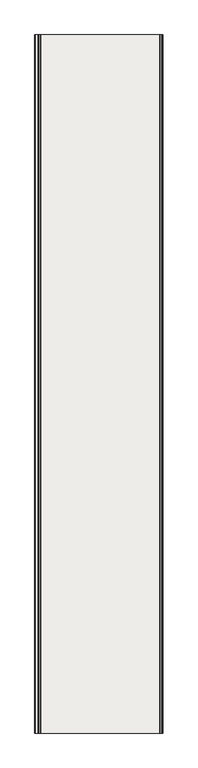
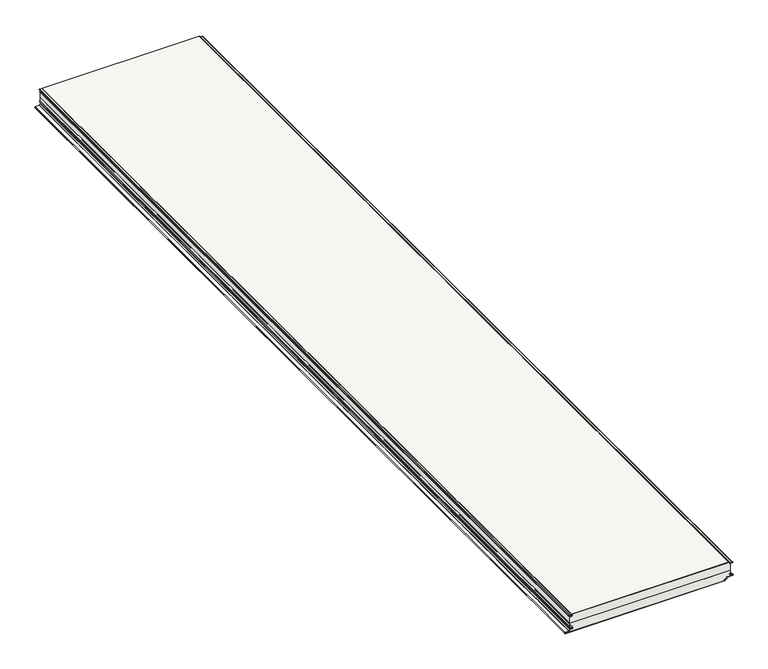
"""IFC4 building model written with IfcOpenShell, lengths in millimetres: covering geometry, Wall sandwich panel SPW-H CORE PIR (single sheet) : -."""

from ifc_helpers import new_model, si_unit, point, frame, frame_2d, origin, place, context, project, spatial, polyline, circle_curve, trimmed, segment, composite_curve, outline, extrude, source, transform, mapped, element, save
from ifc_brep_helpers import plane_surface, cylinder_surface, revolved_surface, advanced_brep


def covering_c6c3e174(model_context):
    return source(origin(), model_context, "Body", "SolidModel", [
        extrude(outline(composite_curve([segment(polyline([(-15.1088808, -1083.0523342), (-14.5423642, -1072.2421915)]), True, "CONTINUOUS"), segment(trimmed(circle_curve(frame_2d((-9.549216, -1072.5038626)), 5.0), [point((-14.5423642, -1072.2421915))], [point((-4.5522622, -1072.3293564))], False, "CARTESIAN"), True, "CONTINUOUS"), segment(polyline([(-4.5522622, -1072.3293564), (-4.0495702, -1086.7238513)]), True, "CONTINUOUS"), segment(trimmed(circle_curve(frame_2d((-2.5266447, -1086.6173526)), 1.5266447), [point((-4.0495702, -1086.7238513))], [point((-1.0, -1086.6173526))], True, "CARTESIAN"), True, "CONTINUOUS"), segment(polyline([(-1.0, -1086.6173526), (-1.0, -1085.0), (0.0, -1085.0), (0.0, -1086.6173526)]), True, "CONTINUOUS"), segment(trimmed(circle_curve(frame_2d((-2.5266447, -1086.6173526)), 2.5266447), [point((0.0, -1086.6173526))], [point((-5.0484281, -1086.7740115))], False, "CARTESIAN"), True, "CONTINUOUS"), segment(polyline([(-5.0484281, -1086.7740115), (-5.551653, -1072.3642576)]), True, "CONTINUOUS"), segment(trimmed(circle_curve(frame_2d((-9.549216, -1072.5038626)), 4.0), [point((-5.551653, -1072.3642576))], [point((-13.5437346, -1072.2945257))], True, "CARTESIAN"), True, "CONTINUOUS"), segment(polyline([(-13.5437346, -1072.2945257), (-14.1102512, -1083.1046684)]), True, "CONTINUOUS"), segment(trimmed(circle_curve(frame_2d((-16.1075105, -1083.0)), 2.0), [point((-14.1102512, -1083.1046684))], [point((-16.1075105, -1085.0))], False, "CARTESIAN"), True, "CONTINUOUS"), segment(polyline([(-16.1075105, -1085.0), (-18.1075105, -1085.0), (-18.1075105, -1084.0), (-16.1075105, -1084.0)]), True, "CONTINUOUS"), segment(trimmed(circle_curve(frame_2d((-16.1075105, -1083.0)), 1.0), [point((-16.1075105, -1084.0))], [point((-15.1088808, -1083.0523342))], True, "CARTESIAN"), True, "CONTINUOUS")], self_intersect=False)), frame((0.0, -6000.0, 0.0), z_axis=(0.0, 1.0, 0.0), x_axis=(0.0, 0.0, 1.0)), (0.0, 0.0, 1.0), 6000.0),
        advanced_brep(
        [(-1080.5824878, -6000.0, -102.0150874), (-1069.3324878, -6000.0, -101.9992045), (-1069.0709825, -6000.0, -92.0060522), (-1083.2742211, -6000.0, -91.2619406), (-1084.0, -6000.0, -90.4971426), (-1084.0, -6000.0, -81.4971426), (-1085.0, -6000.0, -81.4971426), (-1085.0, -6000.0, -90.4971426), (-1083.3265396, -6000.0, -92.260571), (-1069.123301, -6000.0, -93.0046827), (-1069.3331636, -6000.0, -100.9992044), (-1080.6396582, -6000.0, -101.0151671), (-1082.7899391, -6000.0, -102.27871), (-1088.1496634, -6000.0, -109.933474), (-1090.1975249, -6000.0, -110.9995686), (-1113.4143745, -6000.0, -110.9999738), (-1113.414296, -6000.0, -120.0), (-1085.0, -6000.0, -120.0), (-1085.0, -6000.0, -119.0), (-1113.414296, -6000.0, -119.0), (-1113.4143571, -6000.0, -112.0), (-1090.1975075, -6000.0, -111.9995686), (-1087.3305014, -6000.0, -110.5070361), (-1081.9707771, -6000.0, -102.8522722), (-1080.5824878, 0.0, -102.0150874), (-1081.9707771, 0.0, -102.8522722), (-1087.3305014, 0.0, -110.5070361), (-1090.1975075, 0.0, -111.9995686), (-1113.4143571, 0.0, -111.9999738), (-1113.414296, 0.0, -119.0), (-1085.0, 0.0, -119.0), (-1085.0, 0.0, -120.0), (-1113.414296, 0.0, -120.0), (-1113.4143745, 0.0, -111.0), (-1090.1975249, 0.0, -110.9995686), (-1088.1496634, 0.0, -109.933474), (-1082.7899391, 0.0, -102.27871), (-1080.6396582, 0.0, -101.0151671), (-1069.3331636, 0.0, -100.9992044), (-1069.123301, 0.0, -93.0046827), (-1083.3265396, 0.0, -92.260571), (-1085.0, 0.0, -90.4971426), (-1085.0, 0.0, -81.4971426), (-1084.0, 0.0, -81.4971426), (-1084.0, 0.0, -90.4971426), (-1083.2742211, 0.0, -91.2619406), (-1069.0709825, 0.0, -92.0060522), (-1069.3324878, 0.0, -101.9992045)],
        [
            (0, 1),
            (1, 2, circle_curve(frame((-1069.3325751, -6000.0, -96.9992045), z_axis=(0.0, -1.0, 0.0), x_axis=(1.0, 0.0, 0.0)), 5.0)),
            (2, 3),
            (3, 4, circle_curve(frame((-1083.2341531, -6000.0, -90.4971426), z_axis=(0.0, 1.0, 0.0), x_axis=(1.0, 0.0, 0.0)), 0.7658469)),
            (4, 5),
            (5, 6),
            (6, 7),
            (7, 8, circle_curve(frame((-1083.2341531, -6000.0, -90.4971426), z_axis=(0.0, -1.0, 0.0), x_axis=(1.0, 0.0, 0.0)), 1.7658469)),
            (8, 9),
            (9, 10, circle_curve(frame((-1069.3325751, -6000.0, -96.9992045), z_axis=(0.0, 1.0, 0.0), x_axis=(1.0, 0.0, 0.0)), 4.0)),
            (10, 11),
            (11, 12, circle_curve(frame((-1080.3324529, -6000.0, -103.9993964), z_axis=(0.0, -1.0, 0.0), x_axis=(1.0, 0.0, 0.0)), 3.0)),
            (12, 13),
            (13, 14, circle_curve(frame((-1090.1975686, -6000.0, -108.4995686), z_axis=(0.0, 1.0, 0.0), x_axis=(1.0, 0.0, 0.0)), 2.5)),
            (14, 15),
            (15, 16, circle_curve(frame((-1113.414296, -6000.0, -115.5), z_axis=(0.0, -1.0, 0.0), x_axis=(1.0, 0.0, 0.0)), 4.5)),
            (16, 17),
            (17, 18),
            (18, 19),
            (19, 20, circle_curve(frame((-1113.414296, -6000.0, -115.5), z_axis=(0.0, 1.0, 0.0), x_axis=(1.0, 0.0, 0.0)), 3.5)),
            (20, 21),
            (21, 22, circle_curve(frame((-1090.1975686, -6000.0, -108.4995686), z_axis=(0.0, -1.0, 0.0), x_axis=(1.0, 0.0, 0.0)), 3.5)),
            (22, 23),
            (23, 0, circle_curve(frame((-1080.3324529, -6000.0, -103.9993964), z_axis=(0.0, 1.0, 0.0), x_axis=(1.0, 0.0, 0.0)), 2.0)),
            (24, 25, circle_curve(frame((-1080.3324529, 0.0, -103.9993964), z_axis=(0.0, -1.0, 0.0), x_axis=(1.0, 0.0, 0.0)), 2.0)),
            (25, 26),
            (26, 27, circle_curve(frame((-1090.1975686, 0.0, -108.4995686), z_axis=(0.0, 1.0, 0.0), x_axis=(1.0, 0.0, 0.0)), 3.5)),
            (27, 28),
            (28, 29, circle_curve(frame((-1113.414296, 0.0, -115.5), z_axis=(0.0, -1.0, 0.0), x_axis=(1.0, 0.0, 0.0)), 3.5)),
            (29, 30),
            (30, 31),
            (31, 32),
            (32, 33, circle_curve(frame((-1113.414296, 0.0, -115.5), z_axis=(0.0, 1.0, 0.0), x_axis=(1.0, 0.0, 0.0)), 4.5)),
            (33, 34),
            (34, 35, circle_curve(frame((-1090.1975686, 0.0, -108.4995686), z_axis=(0.0, -1.0, 0.0), x_axis=(1.0, 0.0, 0.0)), 2.5)),
            (35, 36),
            (36, 37, circle_curve(frame((-1080.3324529, 0.0, -103.9993964), z_axis=(0.0, 1.0, 0.0), x_axis=(1.0, 0.0, 0.0)), 3.0)),
            (37, 38),
            (38, 39, circle_curve(frame((-1069.3325751, 0.0, -96.9992045), z_axis=(0.0, -1.0, 0.0), x_axis=(1.0, 0.0, 0.0)), 4.0)),
            (39, 40),
            (40, 41, circle_curve(frame((-1083.2341531, 0.0, -90.4971426), z_axis=(0.0, 1.0, 0.0), x_axis=(1.0, 0.0, 0.0)), 1.7658469)),
            (41, 42),
            (42, 43),
            (43, 44),
            (44, 45, circle_curve(frame((-1083.2341531, 0.0, -90.4971426), z_axis=(0.0, -1.0, 0.0), x_axis=(1.0, 0.0, 0.0)), 0.7658469)),
            (45, 46),
            (46, 47, circle_curve(frame((-1069.3325751, 0.0, -96.9992045), z_axis=(0.0, 1.0, 0.0), x_axis=(1.0, 0.0, 0.0)), 5.0)),
            (47, 24),
            (0, 24),
            (47, 1),
            (46, 2),
            (45, 3),
            (44, 4),
            (43, 5),
            (42, 6),
            (16, 32),
            (31, 17),
            (30, 18),
            (29, 19),
            (41, 7),
            (40, 8),
            (39, 9),
            (38, 10),
            (37, 11),
            (36, 12),
            (35, 13),
            (34, 14),
            (33, 15),
            (20, 28),
            (27, 21),
            (26, 22),
            (25, 23),
        ],
        [
            plane_surface(frame((-1085.0, -6000.0, -120.0), z_axis=(0.0, -1.0, 0.0), x_axis=(0.0, 0.0, -1.0))),
            plane_surface(frame((-1085.0, 0.0, -120.0), z_axis=(0.0, 1.0, 0.0), x_axis=(0.0, 0.0, -1.0))),
            plane_surface(frame((-1080.5824878, -6000.0, -102.0150874), z_axis=(0.001411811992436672, 0.0, -0.9999990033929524), x_axis=(0.0, 1.0, 0.0))),
            cylinder_surface(frame((-1069.3325751, -6000.0, -96.9992045), z_axis=(0.0, -1.0, 0.0), x_axis=(1.0, 0.0, 0.0)), 5.0),
            plane_surface(frame((-1069.0709825, -6000.0, -92.0060522), z_axis=(0.05231852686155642, 0.0, 0.998630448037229), x_axis=(0.0, 1.0, 0.0))),
            revolved_surface(polyline([(-1082.4683062, 0.0, -90.4971426), (-1082.4683062, -6000.0, -90.4971426)]), (-1083.2341531, -6000.0, -90.4971426), (0.0, 1.0, 0.0)),
            plane_surface(frame((-1084.0, -6000.0, -90.4971426), z_axis=(1.0, 0.0, 0.0), x_axis=(0.0, 1.0, 0.0))),
            plane_surface(frame((-1084.0, -6000.0, -81.4971426), z_axis=(0.0, 0.0, 1.0), x_axis=(0.0, 1.0, 0.0))),
            plane_surface(frame((-1113.414296, -6000.0, -120.0), z_axis=(0.0, 0.0, -1.0), x_axis=(0.0, 1.0, 0.0))),
            plane_surface(frame((-1085.0, -6000.0, -120.0), z_axis=(1.0, 0.0, 0.0), x_axis=(0.0, 1.0, 0.0))),
            plane_surface(frame((-1085.0, -6000.0, -119.0), z_axis=(0.0, 0.0, 1.0), x_axis=(0.0, 1.0, 0.0))),
            plane_surface(frame((-1085.0, -6000.0, -81.4971426), z_axis=(-1.0, 0.0, 0.0), x_axis=(0.0, 1.0, 0.0))),
            cylinder_surface(frame((-1083.2341531, -6000.0, -90.4971426), z_axis=(0.0, -1.0, 0.0), x_axis=(1.0, 0.0, 0.0)), 1.7658469),
            plane_surface(frame((-1083.3265396, -6000.0, -92.260571), z_axis=(-0.05231852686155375, 0.0, -0.9986304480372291), x_axis=(0.0, 1.0, 0.0))),
            revolved_surface(polyline([(-1065.3325751, 0.0, -96.9992045), (-1065.3325751, -6000.0, -96.9992045)]), (-1069.3325751, -6000.0, -96.9992045), (0.0, 1.0, 0.0)),
            plane_surface(frame((-1069.3331636, -6000.0, -100.9992044), z_axis=(-0.0014118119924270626, 0.0, 0.9999990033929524), x_axis=(0.0, 1.0, 0.0))),
            cylinder_surface(frame((-1080.3324529, -6000.0, -103.9993964), z_axis=(0.0, -1.0, 0.0), x_axis=(1.0, 0.0, 0.0)), 3.0),
            plane_surface(frame((-1082.7899391, -6000.0, -102.27871), z_axis=(-0.8191620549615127, 0.0, 0.573562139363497), x_axis=(0.0, 1.0, 0.0))),
            revolved_surface(polyline([(-1087.6975686, 0.0, -108.4995686), (-1087.6975686, -6000.0, -108.4995686)]), (-1090.1975686, -6000.0, -108.4995686), (0.0, 1.0, 0.0)),
            plane_surface(frame((-1090.1975249, -6000.0, -110.9995686), z_axis=(-1.745329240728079e-05, 0.0, 0.9999999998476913), x_axis=(0.0, 1.0, 0.0))),
            plane_surface(frame((-1113.4143571, -6000.0, -111.9999738), z_axis=(1.7453292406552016e-05, 0.0, -0.9999999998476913), x_axis=(0.0, 1.0, 0.0))),
            cylinder_surface(frame((-1090.1975686, -6000.0, -108.4995686), z_axis=(0.0, -1.0, 0.0), x_axis=(1.0, 0.0, 0.0)), 3.5),
            plane_surface(frame((-1087.3305014, -6000.0, -110.5070361), z_axis=(0.8191620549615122, 0.0, -0.5735621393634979), x_axis=(0.0, 1.0, 0.0))),
            revolved_surface(polyline([(-1078.3324529, 0.0, -103.9993964), (-1078.3324529, -6000.0, -103.9993964)]), (-1080.3324529, -6000.0, -103.9993964), (0.0, 1.0, 0.0)),
            cylinder_surface(frame((-1113.414296, -6000.0, -115.5), z_axis=(0.0, -1.0, 0.0), x_axis=(1.0, 0.0, 0.0)), 4.5),
            revolved_surface(polyline([(-1109.914296, 0.0, -115.5), (-1109.914296, -6000.0, -115.5)]), (-1113.414296, -6000.0, -115.5), (0.0, 1.0, 0.0)),
        ],
        [
            (0, [[1, 2, 3, 4, 5, 6, 7, 8, 9, 10, 11, 12, 13, 14, 15, 16, 17, 18, 19, 20, 21, 22, 23, 24]]),
            (1, [[25, 26, 27, 28, 29, 30, 31, 32, 33, 34, 35, 36, 37, 38, 39, 40, 41, 42, 43, 44, 45, 46, 47, 48]]),
            (2, [[-1, 49, -48, 50]]),
            (3, [[-2, -50, -47, 51]]),
            (4, [[-3, -51, -46, 52]]),
            (5, [[-4, -52, -45, 53]]),
            (6, [[-5, -53, -44, 54]]),
            (7, [[-6, -54, -43, 55]]),
            (8, [[-17, 56, -32, 57]]),
            (9, [[-18, -57, -31, 58]]),
            (10, [[-19, -58, -30, 59]]),
            (11, [[-7, -55, -42, 60]]),
            (12, [[-8, -60, -41, 61]]),
            (13, [[-9, -61, -40, 62]]),
            (14, [[-10, -62, -39, 63]]),
            (15, [[-11, -63, -38, 64]]),
            (16, [[-12, -64, -37, 65]]),
            (17, [[-13, -65, -36, 66]]),
            (18, [[-14, -66, -35, 67]]),
            (19, [[-15, -67, -34, 68]]),
            (20, [[-21, 69, -28, 70]]),
            (21, [[-22, -70, -27, 71]]),
            (22, [[-23, -71, -26, 72]]),
            (23, [[-24, -72, -25, -49]]),
            (24, [[-16, -68, -33, -56]]),
            (25, [[-20, -59, -29, -69]]),
        ],
    ),
        extrude(outline(composite_curve([segment(polyline([(-1.0, -1085.0), (-1.0, -42.1186621)]), True, "CONTINUOUS"), segment(trimmed(circle_curve(frame_2d((-2.5, -42.1186621)), 1.5), [point((-1.0, -42.1186621))], [point((-2.5, -40.6186621))], True, "CARTESIAN"), True, "CONTINUOUS"), segment(polyline([(-2.5, -40.6186621), (-4.3, -40.6186621)]), True, "CONTINUOUS"), segment(trimmed(circle_curve(frame_2d((-4.3, -38.1186621)), 2.5), [point((-4.3, -40.6186621))], [point((-6.7984771, -38.2059108))], False, "CARTESIAN"), True, "CONTINUOUS"), segment(polyline([(-6.7984771, -38.2059108), (-7.363951, -22.012857)]), True, "CONTINUOUS"), segment(trimmed(circle_curve(frame_2d((-9.3627326, -22.082656)), 2.0), [point((-7.363951, -22.012857))], [point((-11.3599917, -21.9779841))], True, "CARTESIAN"), True, "CONTINUOUS"), segment(polyline([(-11.3599917, -21.9779841), (-11.921027, -32.6831758)]), True, "CONTINUOUS"), segment(trimmed(circle_curve(frame_2d((-15.4162304, -32.5)), 3.5), [point((-11.921027, -32.6831758))], [point((-15.4162304, -36.0))], False, "CARTESIAN"), True, "CONTINUOUS"), segment(polyline([(-15.4162304, -36.0), (-18.1062304, -36.0), (-18.1062304, -35.0), (-15.4162304, -35.0)]), True, "CONTINUOUS"), segment(trimmed(circle_curve(frame_2d((-15.4162304, -32.5)), 2.5), [point((-15.4162304, -35.0))], [point((-12.9196566, -32.6308399))], True, "CARTESIAN"), True, "CONTINUOUS"), segment(polyline([(-12.9196566, -32.6308399), (-12.3586212, -21.9256482)]), True, "CONTINUOUS"), segment(trimmed(circle_curve(frame_2d((-9.3627326, -22.082656)), 3.0), [point((-12.3586212, -21.9256482))], [point((-6.3645601, -21.9779575))], False, "CARTESIAN"), True, "CONTINUOUS"), segment(polyline([(-6.3645601, -21.9779575), (-5.7990862, -38.1710114)]), True, "CONTINUOUS"), segment(trimmed(circle_curve(frame_2d((-4.3, -38.1186621)), 1.5), [point((-5.7990862, -38.1710114))], [point((-4.3, -39.6186621))], True, "CARTESIAN"), True, "CONTINUOUS"), segment(polyline([(-4.3, -39.6186621), (-2.5, -39.6186621)]), True, "CONTINUOUS"), segment(trimmed(circle_curve(frame_2d((-2.5, -42.1186621)), 2.5), [point((-2.5, -39.6186621))], [point((0.0, -42.1186621))], False, "CARTESIAN"), True, "CONTINUOUS"), segment(polyline([(0.0, -42.1186621), (0.0, -1085.0), (-1.0, -1085.0)]), True, "CONTINUOUS")], self_intersect=False)), frame((0.0, -6000.0, 0.0), z_axis=(0.0, 1.0, 0.0), x_axis=(0.0, 0.0, 1.0)), (0.0, 0.0, 1.0), 6000.0),
        extrude(outline(composite_curve([segment(polyline([(-119.0, -1085.0), (-120.0, -1085.0), (-120.0, -73.4477183)]), True, "CONTINUOUS"), segment(trimmed(circle_curve(frame_2d((-115.0, -73.4477183)), 5.0), [point((-120.0, -73.4477183))], [point((-115.0, -68.4477183))], False, "CARTESIAN"), True, "CONTINUOUS"), segment(polyline([(-115.0, -68.4477183), (-112.008232, -68.4477183)]), True, "CONTINUOUS"), segment(trimmed(circle_curve(frame_2d((-112.008232, -66.4315256)), 2.0161927), [point((-112.008232, -68.4477183))], [point((-109.9920393, -66.4315256))], True, "CARTESIAN"), True, "CONTINUOUS"), segment(polyline([(-109.9920393, -66.4315256), (-109.9920393, -60.9141788)]), True, "CONTINUOUS"), segment(trimmed(circle_curve(frame_2d((-107.4959919, -60.9141788)), 2.4960474), [point((-109.9920393, -60.9141788))], [point((-107.9326372, -58.4566204))], False, "CARTESIAN"), True, "CONTINUOUS"), segment(polyline([(-107.9326372, -58.4566204), (-101.6533464, -57.3460478)]), True, "CONTINUOUS"), segment(trimmed(circle_curve(frame_2d((-102.0004127, -55.3763918)), 2.0), [point((-101.6533464, -57.3460478))], [point((-100.0004127, -55.3763918))], True, "CARTESIAN"), True, "CONTINUOUS"), segment(polyline([(-100.0004127, -55.3763918), (-100.0004127, -18.8763918)]), True, "CONTINUOUS"), segment(trimmed(circle_curve(frame_2d((-97.0004127, -18.8763918)), 3.0), [point((-100.0004127, -18.8763918))], [point((-94.0045241, -18.7193839))], False, "CARTESIAN"), True, "CONTINUOUS"), segment(polyline([(-94.0045241, -18.7193839), (-93.2754556, -32.6308399)]), True, "CONTINUOUS"), segment(trimmed(circle_curve(frame_2d((-90.7788817, -32.5)), 2.5), [point((-93.2754556, -32.6308399))], [point((-90.7788817, -35.0))], True, "CARTESIAN"), True, "CONTINUOUS"), segment(polyline([(-90.7788817, -35.0), (-81.4988817, -35.0), (-81.4988817, -36.0), (-90.7788817, -36.0)]), True, "CONTINUOUS"), segment(trimmed(circle_curve(frame_2d((-90.7788817, -32.5)), 3.5), [point((-90.7788817, -36.0))], [point((-94.2740851, -32.6831758))], False, "CARTESIAN"), True, "CONTINUOUS"), segment(polyline([(-94.2740851, -32.6831758), (-95.0031536, -18.7717199)]), True, "CONTINUOUS"), segment(trimmed(circle_curve(frame_2d((-97.0004127, -18.8763918)), 2.0), [point((-95.0031536, -18.7717199))], [point((-99.0004127, -18.8763918))], True, "CARTESIAN"), True, "CONTINUOUS"), segment(polyline([(-99.0004127, -18.8763918), (-99.0004127, -55.3763918)]), True, "CONTINUOUS"), segment(trimmed(circle_curve(frame_2d((-102.0004127, -55.3763918)), 3.0), [point((-99.0004127, -55.3763918))], [point((-101.4794682, -58.330815))], False, "CARTESIAN"), True, "CONTINUOUS"), segment(polyline([(-101.4794682, -58.330815), (-107.7580406, -59.4412605)]), True, "CONTINUOUS"), segment(trimmed(circle_curve(frame_2d((-107.4959919, -60.9141788)), 1.4960474), [point((-107.7580406, -59.4412605))], [point((-108.9920393, -60.9141788))], True, "CARTESIAN"), True, "CONTINUOUS"), segment(polyline([(-108.9920393, -60.9141788), (-108.9920393, -66.4315256)]), True, "CONTINUOUS"), segment(trimmed(circle_curve(frame_2d((-112.008232, -66.4315256)), 3.0161927), [point((-108.9920393, -66.4315256))], [point((-112.008232, -69.4477183))], False, "CARTESIAN"), True, "CONTINUOUS"), segment(polyline([(-112.008232, -69.4477183), (-115.0, -69.4477183)]), True, "CONTINUOUS"), segment(trimmed(circle_curve(frame_2d((-115.0, -73.4477183)), 4.0), [point((-115.0, -69.4477183))], [point((-119.0, -73.4477183))], True, "CARTESIAN"), True, "CONTINUOUS"), segment(polyline([(-119.0, -73.4477183), (-119.0, -1085.0)]), True, "CONTINUOUS")], self_intersect=False)), frame((0.0, -6000.0, 0.0), z_axis=(0.0, 1.0, 0.0), x_axis=(0.0, 0.0, 1.0)), (0.0, 0.0, 1.0), 6000.0),
        advanced_brep(
        [(-1113.414296, -6000.0, -119.0), (-1085.0, -6000.0, -119.0), (-73.4477183, -6000.0, -119.0), (-69.4477183, -6000.0, -115.0), (-69.4477183, -6000.0, -112.0078193), (-66.4315256, -6000.0, -108.9916266), (-60.9141788, -6000.0, -108.9916266), (-59.4412605, -6000.0, -107.7576279), (-58.330815, -6000.0, -101.4790555), (-55.3763918, -6000.0, -99.0), (-18.8763918, -6000.0, -99.0), (-18.7717199, -6000.0, -95.0027409), (-32.6831758, -6000.0, -94.2736724), (-36.0, -6000.0, -90.778469), (-36.0, -6000.0, -60.0), (-1084.0, -6000.0, -60.0), (-1084.0, -6000.0, -90.4971426), (-1083.2742211, -6000.0, -91.2619406), (-1069.0709825, -6000.0, -92.0060522), (-1069.3324878, -6000.0, -101.9992045), (-1080.3324878, -6000.0, -101.9993964), (-1081.9707771, -6000.0, -102.8522722), (-1087.3305014, -6000.0, -110.5070361), (-1090.1975075, -6000.0, -111.9995686), (-1113.4143571, -6000.0, -111.9999738), (-1085.0, 0.0, -119.0), (-1113.414296, 0.0, -119.0), (-1113.4143571, 0.0, -112.0), (-1090.1975075, 0.0, -111.9995686), (-1087.3305014, 0.0, -110.5070361), (-1081.9707771, 0.0, -102.8522722), (-1080.3324878, 0.0, -101.9993964), (-1069.3324878, 0.0, -101.9992045), (-1069.0709825, 0.0, -92.0060522), (-1083.2742211, 0.0, -91.2619406), (-1084.0, 0.0, -90.4971426), (-1084.0, 0.0, -60.0), (-36.0, 0.0, -60.0), (-36.0, 0.0, -90.778469), (-32.6831758, 0.0, -94.2736724), (-18.7717199, 0.0, -95.0027409), (-18.8763918, 0.0, -99.0), (-55.3763918, 0.0, -99.0), (-58.330815, 0.0, -101.4790555), (-59.4412605, 0.0, -107.7576279), (-60.9141788, 0.0, -108.9916266), (-66.4315256, 0.0, -108.9916266), (-69.4477183, 0.0, -112.0078193), (-69.4477183, 0.0, -115.0), (-73.4477183, 0.0, -119.0)],
        [
            (0, 1),
            (1, 2),
            (2, 3, circle_curve(frame((-73.4477183, -6000.0, -115.0), z_axis=(0.0, -1.0, 0.0), x_axis=(-1.0, 0.0, 0.0)), 4.0)),
            (3, 4),
            (4, 5, circle_curve(frame((-66.4315256, -6000.0, -112.0078193), z_axis=(0.0, 1.0, 0.0), x_axis=(-1.0, 0.0, 0.0)), 3.0161927)),
            (5, 6),
            (6, 7, circle_curve(frame((-60.9141788, -6000.0, -107.4955792), z_axis=(0.0, -1.0, 0.0), x_axis=(-1.0, 0.0, 0.0)), 1.4960474)),
            (7, 8),
            (8, 9, circle_curve(frame((-55.3763918, -6000.0, -102.0), z_axis=(0.0, 1.0, 0.0), x_axis=(-1.0, 0.0, 0.0)), 3.0)),
            (9, 10),
            (10, 11, circle_curve(frame((-18.8763918, -6000.0, -97.0), z_axis=(0.0, -1.0, 0.0), x_axis=(-1.0, 0.0, 0.0)), 2.0)),
            (11, 12),
            (12, 13, circle_curve(frame((-32.5, -6000.0, -90.778469), z_axis=(0.0, 1.0, 0.0), x_axis=(-1.0, 0.0, 0.0)), 3.5)),
            (13, 14),
            (14, 15),
            (15, 16),
            (16, 17, circle_curve(frame((-1083.2341531, -6000.0, -90.4971426), z_axis=(0.0, -1.0, 0.0), x_axis=(-1.0, 0.0, 0.0)), 0.7658469)),
            (17, 18),
            (18, 19, circle_curve(frame((-1069.3325751, -6000.0, -96.9992045), z_axis=(0.0, 1.0, 0.0), x_axis=(-1.0, 0.0, 0.0)), 5.0)),
            (19, 20),
            (20, 21, circle_curve(frame((-1080.3324529, -6000.0, -103.9993964), z_axis=(0.0, -1.0, 0.0), x_axis=(-1.0, 0.0, 0.0)), 2.0)),
            (21, 22),
            (22, 23, circle_curve(frame((-1090.1975686, -6000.0, -108.4995686), z_axis=(0.0, 1.0, 0.0), x_axis=(-1.0, 0.0, 0.0)), 3.5)),
            (23, 24),
            (24, 0, circle_curve(frame((-1113.414296, -6000.0, -115.5), z_axis=(0.0, -1.0, 0.0), x_axis=(-1.0, 0.0, 0.0)), 3.5)),
            (25, 26),
            (26, 27, circle_curve(frame((-1113.414296, 0.0, -115.5), z_axis=(0.0, 1.0, 0.0), x_axis=(-1.0, 0.0, 0.0)), 3.5)),
            (27, 28),
            (28, 29, circle_curve(frame((-1090.1975686, 0.0, -108.4995686), z_axis=(0.0, -1.0, 0.0), x_axis=(-1.0, 0.0, 0.0)), 3.5)),
            (29, 30),
            (30, 31, circle_curve(frame((-1080.3324529, 0.0, -103.9993964), z_axis=(0.0, 1.0, 0.0), x_axis=(-1.0, 0.0, 0.0)), 2.0)),
            (31, 32),
            (32, 33, circle_curve(frame((-1069.3325751, 0.0, -96.9992045), z_axis=(0.0, -1.0, 0.0), x_axis=(-1.0, 0.0, 0.0)), 5.0)),
            (33, 34),
            (34, 35, circle_curve(frame((-1083.2341531, 0.0, -90.4971426), z_axis=(0.0, 1.0, 0.0), x_axis=(-1.0, 0.0, 0.0)), 0.7658469)),
            (35, 36),
            (36, 37),
            (37, 38),
            (38, 39, circle_curve(frame((-32.5, 0.0, -90.778469), z_axis=(0.0, -1.0, 0.0), x_axis=(-1.0, 0.0, 0.0)), 3.5)),
            (39, 40),
            (40, 41, circle_curve(frame((-18.8763918, 0.0, -97.0), z_axis=(0.0, 1.0, 0.0), x_axis=(-1.0, 0.0, 0.0)), 2.0)),
            (41, 42),
            (42, 43, circle_curve(frame((-55.3763918, 0.0, -102.0), z_axis=(0.0, -1.0, 0.0), x_axis=(-1.0, 0.0, 0.0)), 3.0)),
            (43, 44),
            (44, 45, circle_curve(frame((-60.9141788, 0.0, -107.4955792), z_axis=(0.0, 1.0, 0.0), x_axis=(-1.0, 0.0, 0.0)), 1.4960474)),
            (45, 46),
            (46, 47, circle_curve(frame((-66.4315256, 0.0, -112.0078193), z_axis=(0.0, -1.0, 0.0), x_axis=(-1.0, 0.0, 0.0)), 3.0161927)),
            (47, 48),
            (48, 49, circle_curve(frame((-73.4477183, 0.0, -115.0), z_axis=(0.0, 1.0, 0.0), x_axis=(-1.0, 0.0, 0.0)), 4.0)),
            (49, 25),
            (36, 15),
            (14, 37),
            (0, 26),
            (49, 2),
            (23, 28),
            (27, 24),
            (22, 29),
            (21, 30),
            (20, 31),
            (19, 32),
            (18, 33),
            (17, 34),
            (16, 35),
            (13, 38),
            (12, 39),
            (11, 40),
            (10, 41),
            (9, 42),
            (8, 43),
            (7, 44),
            (6, 45),
            (5, 46),
            (4, 47),
            (3, 48),
        ],
        [
            plane_surface(frame((-1145.0, -6000.0, -60.0), z_axis=(0.0, -1.0, 0.0), x_axis=(-1.0, 0.0, 0.0))),
            plane_surface(frame((-1145.0, 0.0, -60.0), z_axis=(0.0, 1.0, 0.0), x_axis=(1.0, 0.0, 0.0))),
            plane_surface(frame((15.0, -6000.0, -60.0), z_axis=(0.0, 0.0, 1.0), x_axis=(0.0, 1.0, 0.0))),
            plane_surface(frame((-1145.0, -6000.0, -119.0), z_axis=(0.0, 0.0, -1.0), x_axis=(0.0, 1.0, 0.0))),
            plane_surface(frame((-1113.4143571, -6000.0, -111.9999738), z_axis=(-1.7453294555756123e-05, 0.0, 0.9999999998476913), x_axis=(0.0, 1.0, 0.0))),
            revolved_surface(polyline([(-1093.6975686, -6000.0, -108.4995686), (-1093.6975686, 0.0, -108.4995686)]), (-1090.1975686, -6000.0, -108.4995686), (0.0, -1.0, 0.0)),
            plane_surface(frame((-1087.3305014, -6000.0, -110.5070361), z_axis=(-0.8191620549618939, 0.0, 0.5735621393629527), x_axis=(0.0, 1.0, 0.0))),
            cylinder_surface(frame((-1080.3324529, -6000.0, -103.9993964), z_axis=(0.0, 1.0, 0.0), x_axis=(-1.0, 0.0, 0.0)), 2.0),
            plane_surface(frame((-1080.3324878, -6000.0, -101.9993964), z_axis=(-1.7453292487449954e-05, 0.0, 0.9999999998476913), x_axis=(0.0, 1.0, 0.0))),
            revolved_surface(polyline([(-1074.3325751, -6000.0, -96.9992045), (-1074.3325751, 0.0, -96.9992045)]), (-1069.3325751, -6000.0, -96.9992045), (0.0, -1.0, 0.0)),
            plane_surface(frame((-1069.0709825, -6000.0, -92.0060522), z_axis=(-0.05231852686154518, 0.0, -0.9986304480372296), x_axis=(0.0, 1.0, 0.0))),
            cylinder_surface(frame((-1083.2341531, -6000.0, -90.4971426), z_axis=(0.0, 1.0, 0.0), x_axis=(-1.0, 0.0, 0.0)), 0.7658469),
            plane_surface(frame((-1084.0, -6000.0, -90.4971426), z_axis=(-1.0, 0.0, 0.0), x_axis=(0.0, 1.0, 0.0))),
            plane_surface(frame((-36.0, -6000.0, -15.4162304), z_axis=(1.0, 0.0, 0.0), x_axis=(0.0, 1.0, 0.0))),
            revolved_surface(polyline([(-36.0, -6000.0, -90.778469), (-36.0, 0.0, -90.778469)]), (-32.5, -6000.0, -90.778469), (0.0, -1.0, 0.0)),
            plane_surface(frame((-32.6831758, -6000.0, -94.2736724), z_axis=(0.05233595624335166, 0.0, 0.9986295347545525), x_axis=(0.0, 1.0, 0.0))),
            cylinder_surface(frame((-18.8763918, -6000.0, -97.0), z_axis=(0.0, 1.0, 0.0), x_axis=(-1.0, 0.0, 0.0)), 2.0),
            plane_surface(frame((-18.8763918, -6000.0, -99.0), z_axis=(0.0, 0.0, -1.0), x_axis=(0.0, 1.0, 0.0))),
            revolved_surface(polyline([(-58.3763918, -6000.0, -102.0), (-58.3763918, 0.0, -102.0)]), (-55.3763918, -6000.0, -102.0), (0.0, -1.0, 0.0)),
            plane_surface(frame((-58.330815, -6000.0, -101.4790555), z_axis=(0.9847174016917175, 0.0, -0.17415980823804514), x_axis=(0.0, 1.0, 0.0))),
            cylinder_surface(frame((-60.9141788, -6000.0, -107.4955792), z_axis=(0.0, 1.0, 0.0), x_axis=(-1.0, 0.0, 0.0)), 1.4960474),
            plane_surface(frame((-60.9141788, -6000.0, -108.9916266), z_axis=(0.0, 0.0, -1.0), x_axis=(0.0, 1.0, 0.0))),
            revolved_surface(polyline([(-69.4477183, -6000.0, -112.0078193), (-69.4477183, 0.0, -112.0078193)]), (-66.4315256, -6000.0, -112.0078193), (0.0, -1.0, 0.0)),
            plane_surface(frame((-69.4477183, -6000.0, -112.0078193), z_axis=(1.0, 0.0, 0.0), x_axis=(0.0, 1.0, 0.0))),
            cylinder_surface(frame((-73.4477183, -6000.0, -115.0), z_axis=(0.0, 1.0, 0.0), x_axis=(-1.0, 0.0, 0.0)), 4.0),
            cylinder_surface(frame((-1113.414296, -6000.0, -115.5), z_axis=(0.0, 1.0, 0.0), x_axis=(-1.0, 0.0, 0.0)), 3.5),
        ],
        [
            (0, [[1, 2, 3, 4, 5, 6, 7, 8, 9, 10, 11, 12, 13, 14, 15, 16, 17, 18, 19, 20, 21, 22, 23, 24, 25]]),
            (1, [[26, 27, 28, 29, 30, 31, 32, 33, 34, 35, 36, 37, 38, 39, 40, 41, 42, 43, 44, 45, 46, 47, 48, 49, 50]]),
            (2, [[51, -15, 52, -37]]),
            (3, [[-1, 53, -26, -50, 54, -2]]),
            (4, [[55, -28, 56, -24]]),
            (5, [[-55, -23, 57, -29]]),
            (6, [[-57, -22, 58, -30]]),
            (7, [[-58, -21, 59, -31]]),
            (8, [[-59, -20, 60, -32]]),
            (9, [[-60, -19, 61, -33]]),
            (10, [[-61, -18, 62, -34]]),
            (11, [[-62, -17, 63, -35]]),
            (12, [[-63, -16, -51, -36]]),
            (13, [[64, -38, -52, -14]]),
            (14, [[-64, -13, 65, -39]]),
            (15, [[-65, -12, 66, -40]]),
            (16, [[-66, -11, 67, -41]]),
            (17, [[-67, -10, 68, -42]]),
            (18, [[-68, -9, 69, -43]]),
            (19, [[-69, -8, 70, -44]]),
            (20, [[-70, -7, 71, -45]]),
            (21, [[-71, -6, 72, -46]]),
            (22, [[-72, -5, 73, -47]]),
            (23, [[-73, -4, 74, -48]]),
            (24, [[-74, -3, -54, -49]]),
            (25, [[-56, -27, -53, -25]]),
        ],
    ),
        advanced_brep(
        [(-1085.0, -6000.0, -1.0), (-1086.6173526, -6000.0, -1.0), (-1086.7238513, -6000.0, -4.0495702), (-1072.3293564, -6000.0, -4.5522622), (-1072.2421915, -6000.0, -14.5423642), (-1083.0523342, -6000.0, -15.1088808), (-1084.0, -6000.0, -16.1075105), (-1084.0, -6000.0, -60.0), (-36.0, -6000.0, -60.0), (-36.0, -6000.0, -15.4162304), (-32.6831758, -6000.0, -11.921027), (-21.9779841, -6000.0, -11.3599917), (-22.012857, -6000.0, -7.363951), (-38.2059108, -6000.0, -6.7984771), (-40.6186621, -6000.0, -4.3), (-40.6186621, -6000.0, -2.5), (-42.1186621, -6000.0, -1.0), (-43.1368714, -6000.0, -1.0), (-1086.6173526, 0.0, -1.0), (-1085.0, 0.0, -1.0), (-43.1368714, 0.0, -1.0), (-42.1186621, 0.0, -1.0), (-40.6186621, 0.0, -2.5), (-40.6186621, 0.0, -4.3), (-38.2059108, 0.0, -6.7984771), (-22.012857, 0.0, -7.363951), (-21.9779841, 0.0, -11.3599917), (-32.6831758, 0.0, -11.921027), (-36.0, 0.0, -15.4162304), (-36.0, 0.0, -60.0), (-1084.0, 0.0, -60.0), (-1084.0, 0.0, -16.1075105), (-1083.0523342, 0.0, -15.1088808), (-1072.2421915, 0.0, -14.5423642), (-1072.3293564, 0.0, -4.5522622), (-1086.7238513, 0.0, -4.0495702)],
        [
            (0, 1),
            (1, 2, circle_curve(frame((-1086.6173526, -6000.0, -2.5266447), z_axis=(0.0, -1.0, 0.0), x_axis=(-1.0, 0.0, 0.0)), 1.5266447)),
            (2, 3),
            (3, 4, circle_curve(frame((-1072.5038626, -6000.0, -9.549216), z_axis=(0.0, 1.0, 0.0), x_axis=(-1.0, 0.0, 0.0)), 5.0)),
            (4, 5),
            (5, 6, circle_curve(frame((-1083.0, -6000.0, -16.1075105), z_axis=(0.0, -1.0, 0.0), x_axis=(-1.0, 0.0, 0.0)), 1.0)),
            (6, 7),
            (7, 8),
            (8, 9),
            (9, 10, circle_curve(frame((-32.5, -6000.0, -15.4162304), z_axis=(0.0, 1.0, 0.0), x_axis=(-1.0, 0.0, 0.0)), 3.5)),
            (10, 11),
            (11, 12, circle_curve(frame((-22.082656, -6000.0, -9.3627326), z_axis=(0.0, -1.0, 0.0), x_axis=(-1.0, 0.0, 0.0)), 2.0)),
            (12, 13),
            (13, 14, circle_curve(frame((-38.1186621, -6000.0, -4.3), z_axis=(0.0, 1.0, 0.0), x_axis=(-1.0, 0.0, 0.0)), 2.5)),
            (14, 15),
            (15, 16, circle_curve(frame((-42.1186621, -6000.0, -2.5), z_axis=(0.0, -1.0, 0.0), x_axis=(-1.0, 0.0, 0.0)), 1.5)),
            (16, 17),
            (17, 0),
            (18, 19),
            (19, 20),
            (20, 21),
            (21, 22, circle_curve(frame((-42.1186621, 0.0, -2.5), z_axis=(0.0, 1.0, 0.0), x_axis=(-1.0, 0.0, 0.0)), 1.5)),
            (22, 23),
            (23, 24, circle_curve(frame((-38.1186621, 0.0, -4.3), z_axis=(0.0, -1.0, 0.0), x_axis=(-1.0, 0.0, 0.0)), 2.5)),
            (24, 25),
            (25, 26, circle_curve(frame((-22.082656, 0.0, -9.3627326), z_axis=(0.0, 1.0, 0.0), x_axis=(-1.0, 0.0, 0.0)), 2.0)),
            (26, 27),
            (27, 28, circle_curve(frame((-32.5, 0.0, -15.4162304), z_axis=(0.0, -1.0, 0.0), x_axis=(-1.0, 0.0, 0.0)), 3.5)),
            (28, 29),
            (29, 30),
            (30, 31),
            (31, 32, circle_curve(frame((-1083.0, 0.0, -16.1075105), z_axis=(0.0, 1.0, 0.0), x_axis=(-1.0, 0.0, 0.0)), 1.0)),
            (32, 33),
            (33, 34, circle_curve(frame((-1072.5038626, 0.0, -9.549216), z_axis=(0.0, -1.0, 0.0), x_axis=(-1.0, 0.0, 0.0)), 5.0)),
            (34, 35),
            (35, 18, circle_curve(frame((-1086.6173526, 0.0, -2.5266447), z_axis=(0.0, 1.0, 0.0), x_axis=(-1.0, 0.0, 0.0)), 1.5266447)),
            (16, 21),
            (18, 1),
            (7, 30),
            (29, 8),
            (6, 31),
            (5, 32),
            (4, 33),
            (3, 34),
            (2, 35),
            (15, 22),
            (14, 23),
            (13, 24),
            (12, 25),
            (11, 26),
            (10, 27),
            (9, 28),
        ],
        [
            plane_surface(frame((-1145.0, -6000.0, -1.0), z_axis=(0.0, -1.0, 0.0), x_axis=(-1.0, 0.0, 0.0))),
            plane_surface(frame((-1145.0, 0.0, -1.0), z_axis=(0.0, 1.0, 0.0), x_axis=(1.0, 0.0, 0.0))),
            plane_surface(frame((-5.0, -6000.0, -1.0), z_axis=(0.0, 0.0, 1.0), x_axis=(0.0, 1.0, 0.0))),
            plane_surface(frame((-1145.0, -6000.0, -60.0), z_axis=(0.0, 0.0, -1.0), x_axis=(0.0, 1.0, 0.0))),
            plane_surface(frame((-1084.0, -6000.0, -90.4971426), z_axis=(-1.0, 0.0, 0.0), x_axis=(0.0, 1.0, 0.0))),
            cylinder_surface(frame((-1083.0, -6000.0, -16.1075105), z_axis=(0.0, 1.0, 0.0), x_axis=(-1.0, 0.0, 0.0)), 1.0),
            plane_surface(frame((-1083.0523342, -6000.0, -15.1088808), z_axis=(-0.052334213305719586, 0.0, 0.9986296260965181), x_axis=(0.0, 1.0, 0.0))),
            revolved_surface(polyline([(-1077.5038626, -6000.0, -9.549216), (-1077.5038626, 0.0, -9.549216)]), (-1072.5038626, -6000.0, -9.549216), (0.0, -1.0, 0.0)),
            plane_surface(frame((-1072.3293564, -6000.0, -4.5522622), z_axis=(-0.03490124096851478, 0.0, -0.9993907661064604), x_axis=(0.0, 1.0, 0.0))),
            cylinder_surface(frame((-42.1186621, -6000.0, -2.5), z_axis=(0.0, 1.0, 0.0), x_axis=(-1.0, 0.0, 0.0)), 1.5),
            plane_surface(frame((-40.6186621, -6000.0, -2.5), z_axis=(1.0, 0.0, 0.0), x_axis=(0.0, 1.0, 0.0))),
            revolved_surface(polyline([(-40.6186621, -6000.0, -4.3), (-40.6186621, 0.0, -4.3)]), (-38.1186621, -6000.0, -4.3), (0.0, -1.0, 0.0)),
            plane_surface(frame((-38.2059108, -6000.0, -6.7984771), z_axis=(0.03489949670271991, 0.0, 0.9993908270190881), x_axis=(0.0, 1.0, 0.0))),
            cylinder_surface(frame((-22.082656, -6000.0, -9.3627326), z_axis=(0.0, 1.0, 0.0), x_axis=(-1.0, 0.0, 0.0)), 2.0),
            plane_surface(frame((-21.9779841, -6000.0, -11.3599917), z_axis=(0.052335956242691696, 0.0, -0.9986295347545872), x_axis=(0.0, 1.0, 0.0))),
            revolved_surface(polyline([(-36.0, -6000.0, -15.4162304), (-36.0, 0.0, -15.4162304)]), (-32.5, -6000.0, -15.4162304), (0.0, -1.0, 0.0)),
            plane_surface(frame((-36.0, -6000.0, -15.4162304), z_axis=(1.0, 0.0, 0.0), x_axis=(0.0, 1.0, 0.0))),
            cylinder_surface(frame((-1086.6173526, -6000.0, -2.5266447), z_axis=(0.0, 1.0, 0.0), x_axis=(-1.0, 0.0, 0.0)), 1.5266447),
        ],
        [
            (0, [[1, 2, 3, 4, 5, 6, 7, 8, 9, 10, 11, 12, 13, 14, 15, 16, 17, 18]]),
            (1, [[19, 20, 21, 22, 23, 24, 25, 26, 27, 28, 29, 30, 31, 32, 33, 34, 35, 36]]),
            (2, [[-1, -18, -17, 37, -21, -20, -19, 38]]),
            (3, [[39, -30, 40, -8]]),
            (4, [[41, -31, -39, -7]]),
            (5, [[-41, -6, 42, -32]]),
            (6, [[-42, -5, 43, -33]]),
            (7, [[-43, -4, 44, -34]]),
            (8, [[-44, -3, 45, -35]]),
            (9, [[46, -22, -37, -16]]),
            (10, [[-46, -15, 47, -23]]),
            (11, [[-47, -14, 48, -24]]),
            (12, [[-48, -13, 49, -25]]),
            (13, [[-49, -12, 50, -26]]),
            (14, [[-50, -11, 51, -27]]),
            (15, [[-51, -10, 52, -28]]),
            (16, [[-52, -9, -40, -29]]),
            (17, [[-45, -2, -38, -36]]),
        ],
    ),
    ])


if __name__ == "__main__":
    model = new_model("IFC4")
    model_context = context("Model", 3, world=origin())
    ifc_project = project(units=[si_unit("LENGTHUNIT", "METRE", prefix="MILLI")], contexts=[model_context])
    site = spatial("IfcSite", under=ifc_project)
    building = spatial("IfcBuilding", under=site)
    placement = place(None, origin())
    covering_shape = covering_c6c3e174(model_context)
    element("IfcCovering", 1, ObjectType="Wall sandwich panel SPW-H CORE PIR (single sheet) : -", at=placement, inside=building, context=model_context, shape_type="MappedRepresentation", body=[
        mapped(covering_shape, transform((0.0, 0.0, 0.0), x_axis=(1.0, 0.0, 0.0), y_axis=(0.0, 1.0, 0.0), z_axis=(0.0, 0.0, 1.0))),
    ])
    save(model, "model.ifc")
